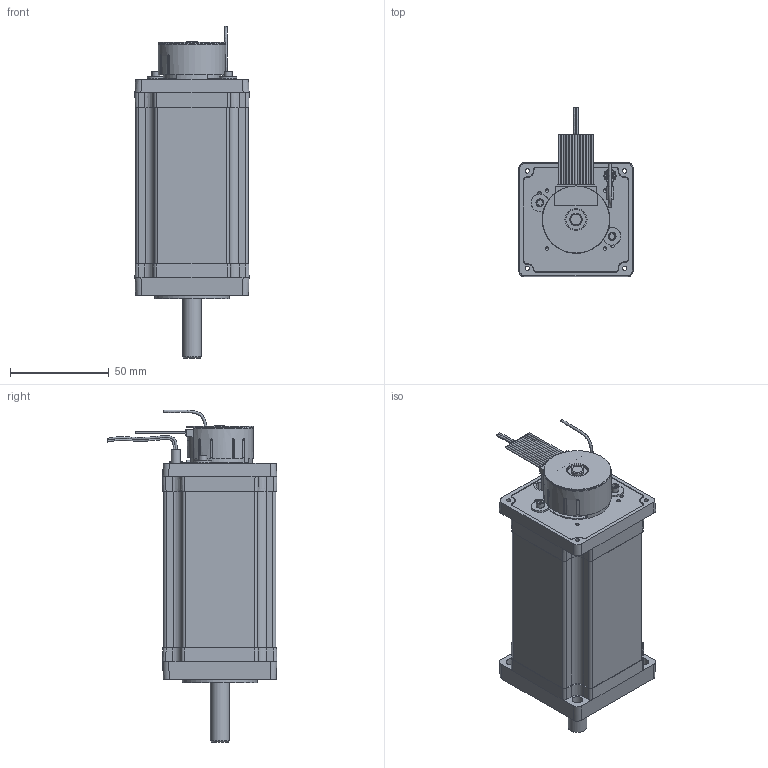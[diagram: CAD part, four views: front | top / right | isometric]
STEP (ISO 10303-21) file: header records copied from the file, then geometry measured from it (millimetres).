
FILE_DESCRIPTION((''),'2;1');
FILE_NAME('C:\CAD_work\Dummy_Modeling_Project_02-12-05\3D MODELS\BE233_FO.stp','2005-12-20T15:28:06',('jevans'),(''),'Autodesk Inventor 10','Autodesk Inventor 10','');
FILE_SCHEMA(('AUTOMOTIVE_DESIGN { 1 0 10303 214 1 1 1 1 }'));
Length unit declared in the file: inch
Products named in the file (1): BE23_FO
Bounding box: 57.95 x 86.08 x 168.5 mm (x, y, z)
Volume: 334936.4 mm3; surface area: 48946.4 mm2
Topology: 7 solids, 7 shells, 496 faces, 1225 edges, 790 vertices
Faces by surface type: plane 281, cylinder 150, bspline 47, cone 12, torus 6
Full cylindrical faces by diameter (mm): 1.016 x13, 1.27 x2, 2.921 x1, 3.02 x1, 3.175 x2, 3.429 x1, 4.013 x3, 4.567 x1, 6.35 x2, 8.89 x2, 9.52 x1, 9.525 x1, 10.16 x1, 10.312 x1, 10.668 x1, 11.176 x1, 21.59 x1, 24.13 x1, 25.403 x1, 26 x1, 27.076 x1, 31.75 x3, 33.02 x2, 34.036 x1, 38.1 x1, 41.732 x1, 47.015 x1
Entity records: 17309 total; most frequent: CARTESIAN_POINT 5925, DIRECTION 2370, ORIENTED_EDGE 2214, EDGE_CURVE 1107, AXIS2_PLACEMENT_3D 855, VERTEX_POINT 760, VECTOR 660, LINE 660
